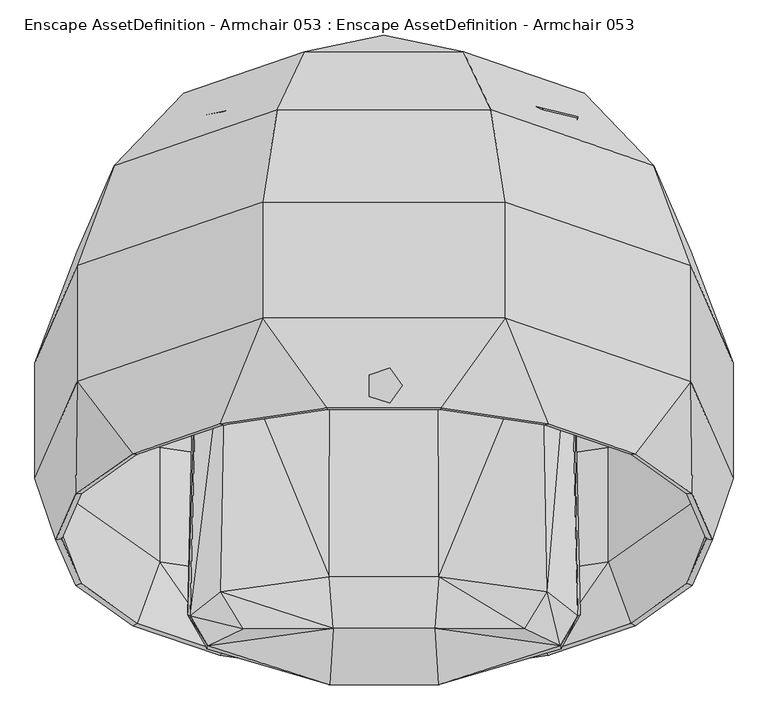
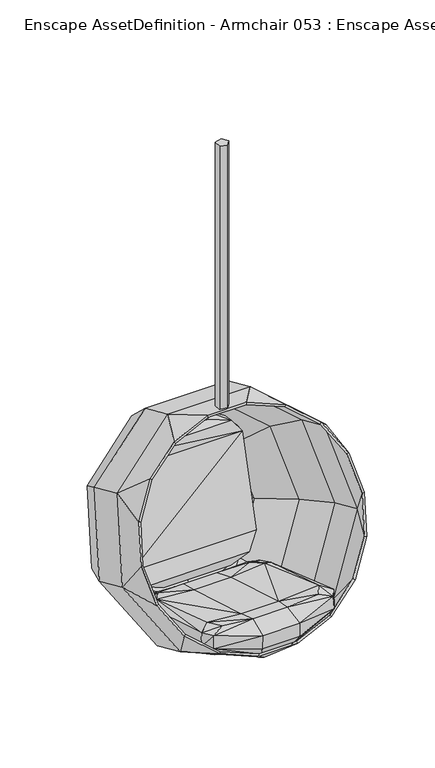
"""IFC4 building model written with IfcOpenShell, lengths in millimetres: geographic element geometry, Enscape AssetDefinition - Armchair 053 : Enscape AssetDefinition - Armchair 053."""

from ifc_helpers import new_model, si_unit, origin, place, context, project, spatial, triangles, source, transform, mapped, element, save


def enscape_assetdefinition_armchair_053_enscape_assetdefinition_fb0e28e1(model_context):
    return source(origin(), model_context, "Body", "Tessellation", [
        triangles([(-0.0001, 531.0829176, -1826.7664032), (172.3534332, 472.1865852, -1958.8520908), (0.0001, 395.7933194, -2130.1782612), (344.7070845, 347.3630633, -2003.0184357), (224.9917173, 262.9196893, -2192.3983006), (408.4060307, 333.7853674, -1672.2426956), (303.130062, 443.3884157, -1787.6637028), (119.715249, 506.0644592, -1647.1010616), (464.4221972, 182.1442237, -1569.2162807), (528.1216521, 35.0248856, -1899.1587868), (464.4224879, 204.4107243, -1962.3890842), (303.1305707, 90.6404612, -2217.5397892), (344.7073388, -94.3498642, -2189.3056114), (0.0003, -145.4440474, -2303.8935299), (344.7073388, -269.7390042, -2111.1006466), (528.1217611, -140.364243, -1820.9538219), (86.2013608, -431.9698176, -2124.2354553), (496.410906, -232.880698, -1677.7413425), (380.2731185, -362.826836, -1969.1694843), (248.205889, -407.9566395, -2070.3814751), (373.0938329, -359.2194617, -1965.0046223), (338.9147418, -266.1674017, -2105.1347317), (458.3175917, -299.1052895, -1830.18727), (466.4738162, -302.0235888, -1832.8068775), (487.5218047, -231.6551006, -1678.9177242), (519.2471211, -138.9667356, -1819.8636269), (456.6924002, 178.9608243, -1572.6832203), (519.3317453, 34.2900854, -1897.1340557), (457.9237204, -163.2958284, -1525.6094948), (456.6179134, 5.6804979, -1495.4655499), (373.8330319, -103.9811622, -1392.585347), (243.2623136, -59.3627783, -1292.5203793), (466.4735619, -163.7378254, -1522.6756622), (464.4221972, 6.7551972, -1491.0113159), (183.4145132, 102.7805542, -1275.6568737), (380.2726098, -102.9346599, -1386.3133461), (85.2237679, -35.9375843, -1239.9852139), (180.3323248, 100.0921554, -1283.7299274), (248.2051987, -57.8048792, -1285.1013554), (86.2006614, -33.7917873, -1231.2478111), (183.4144223, 278.1695942, -1353.8616932), (-161.2923351, 418.2285416, -1482.8631214), (161.2919354, 418.2286142, -1482.8629761), (-464.4224153, 182.1440238, -1569.2167168), (-183.4149128, 278.1694852, -1353.8619839), (-303.1302618, 443.3883067, -1787.6639935), (-119.7155488, 506.0644229, -1647.101207), (-344.7069391, 347.3628817, -2003.018581), (-408.4062123, 333.7851857, -1672.2429863), (-528.1215795, 35.0246835, -1899.1592228), (-224.9914993, 262.9195985, -2192.3985912), (-464.4224153, 204.4105063, -1962.3895203), (0.0002, 229.5703078, -2267.190247), (0.0002, 45.7089787, -2318.307185), (-303.130171, 90.6403704, -2217.5400799), (-344.7069391, -94.3500549, -2189.3057568), (-344.7069391, -269.739095, -2111.1009373), (-466.4737072, -302.0237705, -1832.8073135), (0.0003, -320.8331783, -2225.6887104), (-248.2054893, -407.9568212, -2070.3816204), (-86.2008612, -431.9698176, -2124.2354553), (-84.0905612, -426.9856379, -2116.9824097), (-380.2728642, -362.826945, -1969.1699203), (-244.2592913, -403.2446451, -2063.7390026), (-496.410906, -232.8808979, -1677.7417786), (-338.9144875, -266.1674925, -2105.1350224), (-458.3174827, -299.1054711, -1830.1878513), (-373.0935422, -359.2196434, -1965.0049129), (84.0910699, -426.9854925, -2116.9824097), (0.0003, -316.4029618, -2217.7973316), (244.2597091, -403.2445361, -2063.7388573), (0.0003, -143.1751361, -2295.1325821), (338.97008, -92.9313643, -2182.4516693), (298.024378, 89.1588656, -2210.2162537), (-338.969644, -92.9315641, -2182.45196), (456.5993099, 201.0126032, -1959.3635422), (221.2706145, 258.331888, -2185.5421783), (0.0002, 44.9842818, -2309.2860786), (-298.0239964, 89.1587566, -2210.2165443), (169.7991197, 464.1227242, -1955.6348454), (338.9173579, 341.541253, -1999.2118366), (-0.0001, 522.1031968, -1825.6405998), (0.0002, 225.667203, -2259.0250477), (0.0991, 388.7708193, -2124.4707607), (-221.2849123, 258.2033893, -2185.62197), (-169.7566259, 464.2078208, -1955.4614548), (-401.5267267, 328.2077645, -1674.1049366), (-339.0298511, 341.4855151, -1999.1289928), (-298.06798, 435.8868024, -1787.6247517), (-117.6213452, 497.5485909, -1649.3365356), (117.6210455, 497.5486636, -1649.3363903), (298.0677801, 435.8868024, -1787.624461), (-158.5754225, 411.2287508, -1487.9151386), (158.575041, 411.2287508, -1487.9149933), (401.526436, 328.2079825, -1674.1045006), (180.361738, 273.387873, -1360.913007), (-180.3622285, 273.3877822, -1360.9131523), (-180.3327245, 100.0920645, -1283.7300728), (-456.6180951, 5.6802975, -1495.4658405), (-85.2241585, -35.9376819, -1239.9853592), (-243.2626951, -59.3628736, -1292.5206699), (-86.2010611, -33.791885, -1231.2478111), (-464.4224879, 6.7550973, -1491.0117519), (-183.4149128, 102.7804633, -1275.6568737), (-248.2055984, -57.8049746, -1285.101646), (-380.2729368, -102.9347599, -1386.3136368), (-373.8333226, -103.981253, -1392.5856377), (-466.4737072, -163.7380252, -1522.6759529), (-457.923902, -163.2960282, -1525.6099308), (-528.1216521, -140.3644338, -1820.954258), (-487.5218047, -231.6553004, -1678.9183056), (-519.2470121, -138.9668447, -1819.8642082), (-456.6926182, 178.9606244, -1572.683511), (-519.3315637, 34.2897856, -1897.1344917), (-456.5993099, 201.0125306, -1959.3639782), (-172.3534332, 472.1865852, -1958.8522362), (279.8344817, 224.2507015, -2054.1169155), (230.4634945, 191.8079325, -2122.0886387), (-276.542477, 221.0344007, -2053.3752457), (285.3886848, 340.3437607, -1662.1828445), (-282.0115654, 341.0252234, -1662.8227764), (-230.44391, 188.6360149, -2123.4235863), (-232.7481116, 263.5527902, -2154.6724056), (144.092631, 280.8222848, -2175.2224594), (152.8956456, 199.5241221, -2161.8646992), (-148.6260298, 278.6052871, -2177.8702629), (-150.8978479, 196.2934145, -2158.9499062), (-290.527579, 293.0920664, -2079.9326363), (-286.8050046, 406.7825469, -1664.5443283), (-247.015591, 347.9430788, -1604.0535439), (241.8154906, 352.7139722, -1604.4597691), (152.9898259, 376.7642484, -1582.2221729), (-241.7929992, 416.1974155, -1610.5272766), (-162.5470369, 443.2544123, -1581.5034668), (-161.6612443, 380.1519413, -1576.2591648), (293.094955, 407.5439103, -1669.8559227), (161.0115383, 440.7088191, -1580.698138), (240.5342824, 420.0729057, -1615.0009861), (292.020166, 295.65897, -2079.7404968), (-0.068, 359.2082705, -1879.5769878), (228.2050023, 266.7358808, -2148.0297878), (220.6097174, 186.6415328, -2160.7707253), (86.5221625, 213.1094121, -2187.9684837), (204.6812201, 143.8288389, -2131.7908081), (239.6279061, 90.8965593, -2118.2600933), (258.3174993, 157.2147316, -2150.5172813), (218.954713, 185.1032182, -2190.3212471), (260.6064948, 158.1320266, -2181.4491142), (285.9628867, 116.5867518, -2176.2767555), (296.9258803, -346.1507463, -2056.6267914), (267.7608727, -303.4210871, -2123.1305809), (231.9287031, 145.2741359, -2227.1708874), (259.8923668, 101.6483649, -2222.8598133), (192.1908307, 172.8309295, -2234.4312), (81.3957584, 210.3760034, -2215.8057381), (69.7039757, 198.4202288, -2254.9905556), (-69.7039757, 198.4202288, -2254.9905556), (-81.3957584, 210.3760034, -2215.8057381), (-220.6097174, 186.6415328, -2160.7707253), (73.8032668, 172.5188301, -2154.1705467), (-86.5221625, 213.1094121, -2187.9684837), (-73.8032668, 172.5188301, -2154.1705467), (-204.6812201, 143.8288389, -2131.7908081), (-258.3174993, 157.2147316, -2150.5172813), (-218.954713, 185.1032182, -2190.3212471), (-260.6064948, 158.1320266, -2181.4491142), (-81.7462639, 76.0637665, -2120.2182587), (-239.6279061, 90.8965593, -2118.2600933), (-293.3102762, -347.7549726, -1991.8717323), (-247.2379067, -311.8361984, -1979.8771156), (-83.0374642, -289.3188047, -2010.5066414), (81.7462639, 76.0637665, -2120.2182587), (83.0374642, -289.3188047, -2010.5066414), (247.2379067, -311.8361984, -1979.8771156), (282.3992961, 115.4707498, -2143.5594212), (212.6942122, -367.7328592, -1974.7876007), (76.4206624, -366.5869626, -1989.7846504), (-76.4206624, -366.5869626, -1989.7846504), (293.3102762, -347.7549726, -1991.8717323), (266.4918913, -393.7012233, -1988.5023159), (267.8744741, -397.7118433, -2045.8743954), (83.118364, -450.0289261, -2077.9855167), (67.5746726, -416.4455109, -2131.1552364), (-81.8878614, -452.3796184, -2015.8125675), (-83.118364, -450.0289261, -2077.9855167), (81.8878614, -452.3796184, -2015.8125675), (-67.5746726, -416.4455109, -2131.1552364), (0.0, -105.5475546, -2176.2712326), (239.7833835, -354.885969, -2109.0841999), (-259.8923668, 101.6483649, -2222.8598133), (-267.7608727, -303.4210871, -2123.1305809), (-192.1908307, 172.8309295, -2234.4312), (-267.8744741, -397.7118433, -2045.8743954), (-239.7833835, -354.885969, -2109.0841999), (-285.9628867, 116.5867518, -2176.2767555), (-282.3992961, 115.4707498, -2143.5594212), (-296.9258803, -346.1507463, -2056.6267914), (-231.9287031, 145.2741359, -2227.1708874), (-266.4918913, -393.7012233, -1988.5023159), (-212.6942122, -367.7328592, -1974.7876007), (8.5851971, -26.4223879, -1239.7523792), (-22.4761899, -16.3299921, -1239.7523792), (27.7821887, 0.0, -1239.7523792), (-22.4762898, 16.3299921, -1239.7523792), (8.5851971, -26.4223879, 0.0), (8.5851971, 26.4223879, -1239.7523792), (-22.4762898, 16.3299921, 0.0), (-22.4761899, -16.3299921, 0.0), (27.7821887, 0.0, 0.0), (8.5851971, 26.4223879, 0.0)], [[209, 210, 208], [210, 207, 208], [201, 203, 209], [202, 201, 205], [204, 202, 208], [206, 204, 207], [203, 206, 210], [202, 204, 203], [204, 206, 203], [205, 209, 208], [201, 209, 205], [202, 205, 208], [204, 208, 207], [206, 207, 210], [203, 210, 209], [201, 202, 203], [166, 192, 198], [178, 170, 200], [200, 170, 169], [200, 169, 199], [199, 178, 200], [199, 184, 178], [197, 199, 169], [197, 169, 196], [198, 195, 166], [197, 196, 195], [166, 195, 196], [198, 190, 195], [191, 195, 190], [191, 197, 195], [191, 193, 197], [191, 194, 193], [193, 184, 199], [197, 193, 199], [193, 185, 184], [187, 193, 194], [187, 185, 193], [187, 194, 188], [198, 192, 188], [194, 191, 188], [191, 190, 188], [190, 198, 188], [151, 189, 188], [150, 189, 151], [183, 187, 188], [189, 183, 188], [187, 182, 185], [187, 183, 182], [185, 186, 184], [185, 182, 186], [178, 184, 186], [183, 181, 182], [183, 189, 181], [150, 181, 189], [181, 186, 182], [179, 181, 150], [181, 180, 186], [179, 180, 181], [178, 186, 177], [180, 177, 186], [180, 176, 177], [174, 180, 179], [174, 176, 180], [174, 179, 175], [174, 175, 145], [178, 177, 173], [176, 173, 177], [176, 174, 173], [145, 173, 174], [145, 172, 173], [178, 173, 171], [171, 173, 172], [178, 171, 170], [168, 170, 171], [168, 169, 170], [168, 196, 169], [171, 172, 167], [168, 171, 167], [167, 172, 160], [167, 160, 162], [167, 163, 168], [167, 162, 163], [163, 196, 168], [166, 196, 164], [163, 164, 196], [166, 165, 192], [165, 166, 164], [165, 164, 159], [163, 159, 164], [160, 161, 162], [161, 163, 162], [161, 159, 163], [160, 143, 161], [158, 159, 161], [158, 165, 159], [158, 161, 143], [192, 157, 188], [157, 165, 158], [157, 192, 165], [157, 156, 188], [157, 155, 156], [157, 158, 155], [158, 143, 155], [143, 147, 155], [156, 154, 188], [155, 154, 156], [155, 147, 154], [154, 152, 188], [152, 154, 147], [153, 151, 188], [152, 153, 188], [150, 151, 153], [150, 153, 149], [179, 149, 175], [179, 150, 149], [152, 147, 148], [148, 153, 152], [148, 149, 153], [148, 147, 142], [143, 142, 147], [146, 149, 148], [146, 175, 149], [148, 142, 146], [144, 172, 145], [144, 160, 172], [144, 143, 160], [144, 142, 143], [146, 142, 144], [144, 175, 146], [144, 145, 175], [124, 126, 140], [141, 124, 140], [139, 141, 140], [134, 137, 140], [137, 138, 140], [138, 139, 140], [138, 136, 139], [138, 120, 136], [138, 131, 120], [137, 131, 138], [134, 132, 137], [137, 132, 131], [134, 135, 132], [133, 134, 140], [133, 135, 134], [133, 130, 135], [132, 130, 131], [132, 135, 130], [120, 131, 130], [129, 133, 140], [130, 133, 129], [130, 129, 121], [120, 130, 121], [128, 129, 140], [128, 121, 129], [126, 123, 140], [123, 128, 140], [123, 126, 127], [126, 125, 127], [126, 124, 125], [141, 125, 124], [123, 127, 122], [128, 123, 122], [125, 122, 127], [128, 119, 121], [128, 122, 119], [119, 120, 121], [125, 118, 122], [119, 122, 118], [141, 118, 125], [119, 117, 120], [119, 118, 117], [136, 117, 139], [136, 120, 117], [117, 141, 139], [117, 118, 141], [116, 46, 47], [116, 48, 46], [3, 48, 116], [113, 114, 115], [114, 79, 115], [114, 75, 79], [99, 114, 113], [67, 66, 112], [99, 112, 114], [112, 75, 114], [112, 66, 75], [65, 67, 111], [111, 67, 112], [109, 112, 99], [109, 111, 112], [108, 111, 109], [108, 65, 111], [110, 65, 108], [110, 108, 103], [106, 108, 109], [103, 108, 106], [106, 109, 107], [107, 109, 99], [105, 106, 107], [103, 105, 104], [103, 106, 105], [104, 102, 40], [104, 105, 102], [102, 105, 101], [105, 107, 101], [101, 107, 99], [40, 102, 100], [102, 101, 100], [40, 100, 37], [37, 100, 98], [100, 101, 98], [101, 99, 98], [98, 99, 113], [37, 98, 38], [38, 98, 97], [98, 113, 97], [38, 97, 96], [28, 95, 76], [28, 27, 95], [76, 95, 92], [95, 91, 92], [27, 94, 95], [27, 96, 94], [95, 94, 91], [96, 93, 94], [96, 97, 93], [97, 87, 93], [97, 113, 87], [113, 115, 87], [93, 87, 89], [94, 90, 91], [94, 93, 90], [93, 89, 90], [92, 91, 82], [91, 90, 82], [90, 86, 82], [90, 89, 86], [87, 88, 89], [87, 115, 88], [89, 88, 86], [115, 85, 88], [115, 79, 85], [79, 83, 85], [88, 84, 86], [88, 85, 84], [85, 83, 84], [84, 82, 86], [92, 82, 80], [84, 80, 82], [76, 92, 81], [81, 92, 80], [83, 77, 84], [77, 80, 84], [77, 81, 80], [75, 78, 79], [78, 77, 83], [79, 78, 83], [78, 74, 77], [74, 81, 77], [74, 76, 81], [66, 72, 75], [72, 74, 78], [75, 72, 78], [72, 73, 74], [73, 76, 74], [73, 28, 76], [22, 28, 73], [70, 73, 72], [70, 22, 73], [66, 70, 72], [17, 71, 69], [69, 22, 70], [69, 71, 22], [61, 17, 69], [61, 69, 62], [62, 69, 70], [64, 70, 66], [64, 62, 70], [67, 68, 66], [68, 64, 66], [65, 58, 67], [58, 68, 67], [110, 58, 65], [58, 63, 68], [63, 64, 68], [63, 60, 64], [60, 62, 64], [60, 61, 62], [59, 61, 60], [59, 17, 61], [57, 58, 110], [57, 63, 58], [57, 60, 63], [59, 60, 57], [14, 59, 57], [56, 57, 110], [14, 57, 56], [54, 14, 56], [5, 54, 53], [3, 5, 53], [3, 51, 48], [3, 53, 51], [54, 56, 55], [53, 55, 51], [53, 54, 55], [50, 110, 103], [56, 110, 50], [55, 56, 50], [55, 50, 52], [51, 52, 48], [51, 55, 52], [44, 103, 104], [50, 103, 44], [52, 50, 44], [52, 44, 49], [48, 49, 46], [48, 52, 49], [47, 42, 43], [46, 42, 47], [46, 49, 42], [44, 104, 45], [49, 45, 42], [49, 44, 45], [43, 41, 9], [42, 41, 43], [42, 45, 41], [41, 34, 9], [104, 40, 35], [41, 35, 34], [45, 35, 41], [45, 104, 35], [39, 40, 37], [35, 40, 39], [39, 37, 32], [32, 37, 38], [36, 39, 32], [35, 36, 34], [35, 39, 36], [34, 33, 18], [34, 36, 33], [33, 36, 31], [36, 32, 31], [31, 32, 38], [18, 33, 29], [33, 31, 29], [29, 31, 30], [31, 38, 30], [30, 96, 27], [30, 38, 96], [22, 26, 28], [26, 27, 28], [26, 30, 27], [18, 29, 25], [25, 30, 26], [25, 29, 30], [24, 18, 25], [24, 25, 23], [23, 25, 26], [71, 21, 22], [21, 26, 22], [21, 23, 26], [17, 20, 71], [20, 21, 71], [20, 19, 21], [19, 23, 21], [19, 24, 23], [16, 24, 19], [16, 18, 24], [34, 18, 16], [9, 34, 16], [15, 17, 59], [15, 20, 17], [15, 19, 20], [16, 19, 15], [10, 16, 15], [9, 16, 10], [13, 59, 14], [13, 15, 59], [10, 15, 13], [12, 14, 54], [12, 13, 14], [5, 12, 54], [4, 12, 5], [11, 13, 12], [11, 10, 13], [4, 11, 12], [6, 10, 11], [6, 9, 10], [43, 9, 6], [8, 43, 6], [47, 43, 8], [7, 11, 4], [7, 6, 11], [8, 6, 7], [2, 5, 3], [2, 4, 5], [2, 7, 4], [1, 7, 2], [1, 8, 7], [1, 47, 8], [116, 47, 1], [1, 3, 116], [1, 2, 3]]),
    ])


if __name__ == "__main__":
    model = new_model("IFC4")
    model_context = context("Model", 3, world=origin())
    ifc_project = project(units=[si_unit("LENGTHUNIT", "METRE", prefix="MILLI")], contexts=[model_context])
    site = spatial("IfcSite", under=ifc_project)
    building = spatial("IfcBuilding", under=site)
    placement = place(None, origin())
    enscape_assetdefinition_armchair_053_enscape_assetdefinition_shape = enscape_assetdefinition_armchair_053_enscape_assetdefinition_fb0e28e1(model_context)
    element("IfcGeographicElement", 1, ObjectType="Enscape AssetDefinition - Armchair 053 : Enscape AssetDefinition - Armchair 053", at=placement, inside=building, context=model_context, shape_type="MappedRepresentation", body=[
        mapped(enscape_assetdefinition_armchair_053_enscape_assetdefinition_shape, transform((0.0, 0.0, 0.0), x_axis=(1.0, 0.0, 0.0), y_axis=(0.0, 1.0, 0.0), z_axis=(0.0, 0.0, 1.0))),
    ])
    save(model, "model.ifc")
